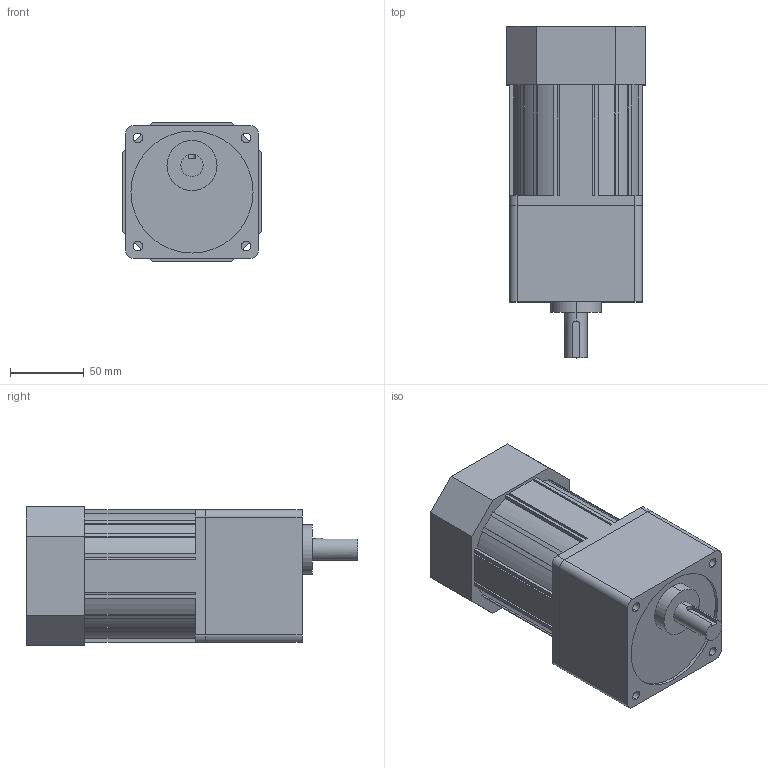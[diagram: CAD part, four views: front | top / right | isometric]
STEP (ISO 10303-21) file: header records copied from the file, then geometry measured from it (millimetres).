
FILE_DESCRIPTION (( 'STEP AP203' ), '1' );
FILE_NAME ('L9VK003B + L9I60PBH.STEP', '2018-09-20T05:33:05', ( '' ), ( '' ), 'SwSTEP 2.0', 'SolidWorks 2017', '' );
FILE_SCHEMA (( 'CONFIG_CONTROL_DESIGN' ));
Length unit declared in the file: millimetre
Products named in the file (1): L9VK003B + L9I60PBH
Bounding box: 94 x 225.5 x 94 mm (x, y, z)
Volume: 1385178.3 mm3; surface area: 108335.2 mm2
Topology: 2 solids, 2 shells, 138 faces, 390 edges, 260 vertices
Faces by surface type: plane 87, cylinder 51
Entity records: 4610 total; most frequent: CARTESIAN_POINT 821, ORIENTED_EDGE 780, DIRECTION 767, EDGE_CURVE 390, VECTOR 287, LINE 287, VERTEX_POINT 260, AXIS2_PLACEMENT_3D 240
